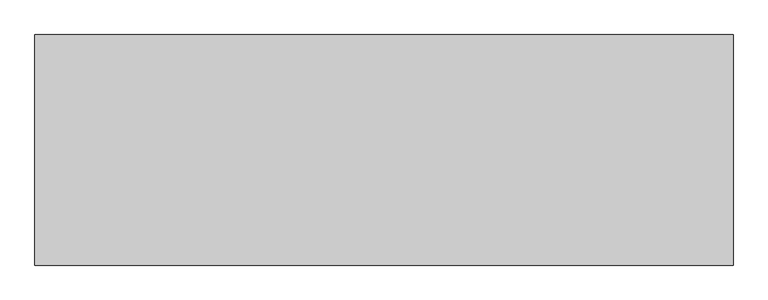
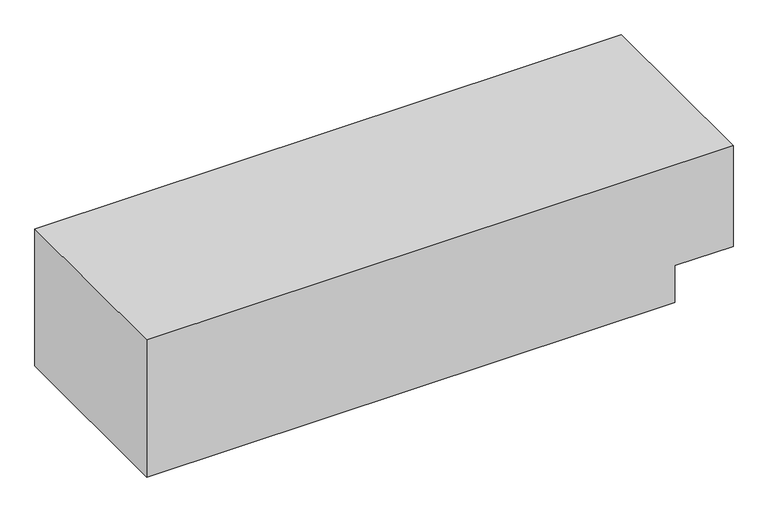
"""IFC4 building model written with IfcOpenShell, lengths in millimetres: beam geometry, 11_Балки_Опора : 09_Балки_Начало."""

from ifc_helpers import new_model, si_unit, frame, origin, place, context, project, spatial, polyline, outline, extrude, source, transform, mapped, element, save


def beam_f466d613(model_context):
    return source(origin(), model_context, "Body", "SweptSolid", [
        extrude(outline(polyline([(150.0, -555.5), (-150.0, -555.5), (-150.0, 535.5), (-70.0, 535.5), (-70.0, 655.5), (150.0, 655.5), (150.0, -555.5)])), frame((0.0, -200.0, 0.0), z_axis=(0.0, 1.0, 0.0), x_axis=(0.0, 0.0, 1.0)), (0.0, 0.0, 1.0), 400.0),
    ])


if __name__ == "__main__":
    model = new_model("IFC4")
    model_context = context("Model", 3, world=origin())
    ifc_project = project(units=[si_unit("LENGTHUNIT", "METRE", prefix="MILLI")], contexts=[model_context])
    site = spatial("IfcSite", under=ifc_project)
    building = spatial("IfcBuilding", under=site)
    placement = place(None, origin())
    beam_shape = beam_f466d613(model_context)
    element("IfcBeam", 1, ObjectType="11_Балки_Опора : 09_Балки_Начало", at=placement, inside=building, context=model_context, shape_type="MappedRepresentation", body=[
        mapped(beam_shape, transform((0.0, 0.0, 0.0), x_axis=(1.0, 0.0, 0.0), y_axis=(0.0, 1.0, 0.0), z_axis=(0.0, 0.0, 1.0))),
    ])
    save(model, "model.ifc")
